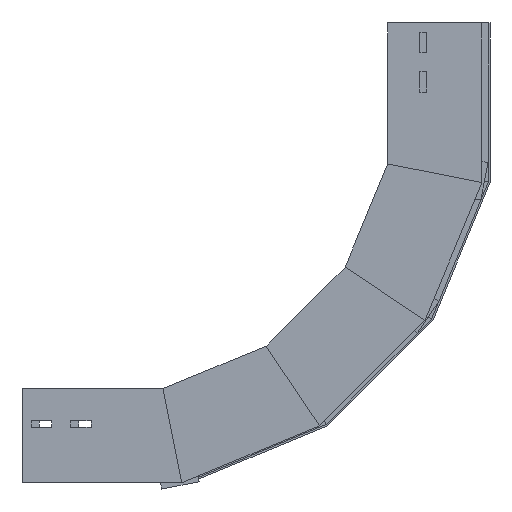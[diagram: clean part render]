
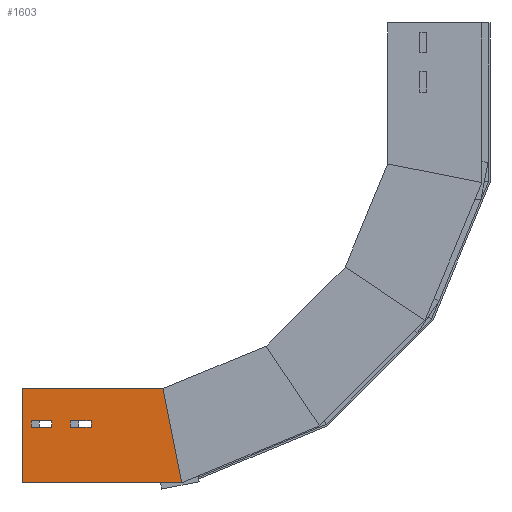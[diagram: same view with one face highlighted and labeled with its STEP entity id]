
A CAD part, left-side view. The second image highlights one B-rep face of the part: STEP entity #1603.
In plain terms, the highlighted planar face has unit normal (-1, 0, 0) as drawn and (1, 0, 0) by its records, which use the part's own axes.
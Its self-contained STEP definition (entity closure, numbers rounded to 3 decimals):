
#23 = ORIENTED_EDGE ( 'NONE', *, *, #347, .F. ) ;
#45 = CARTESIAN_POINT ( 'NONE',  ( 0., 66., -31.835 ) ) ;
#60 = EDGE_CURVE ( 'NONE', #368, #1757, #1211, .T. ) ;
#100 = CARTESIAN_POINT ( 'NONE',  ( 0., 100., 0. ) ) ;
#101 = CARTESIAN_POINT ( 'NONE',  ( 0., 100., -149.709 ) ) ;
#113 = VECTOR ( 'NONE', #443, 1000. ) ;
#137 = DIRECTION ( 'NONE',  ( 0., 1., 0. ) ) ;
#152 = VECTOR ( 'NONE', #431, 1000. ) ;
#153 = ORIENTED_EDGE ( 'NONE', *, *, #969, .F. ) ;
#157 = LINE ( 'NONE', #1230, #152 ) ;
#176 = CARTESIAN_POINT ( 'NONE',  ( 0., 0., 0. ) ) ;
#180 = ORIENTED_EDGE ( 'NONE', *, *, #1697, .T. ) ;
#206 = VECTOR ( 'NONE', #137, 1000. ) ;
#223 = DIRECTION ( 'NONE',  ( 0., 0., -1. ) ) ;
#273 = LINE ( 'NONE', #1289, #1281 ) ;
#279 = EDGE_CURVE ( 'NONE', #406, #368, #1664, .T. ) ;
#281 = CARTESIAN_POINT ( 'NONE',  ( 0., 59., -9.835 ) ) ;
#316 = CARTESIAN_POINT ( 'NONE',  ( 0., 66., -51.505 ) ) ;
#318 = DIRECTION ( 'NONE',  ( 0., -0.981, -0.195 ) ) ;
#342 = EDGE_CURVE ( 'NONE', #770, #406, #1696, .T. ) ;
#347 = EDGE_CURVE ( 'NONE', #616, #1618, #517, .T. ) ;
#368 = VERTEX_POINT ( 'NONE', #404 ) ;
#404 = CARTESIAN_POINT ( 'NONE',  ( 0., 66., -51.505 ) ) ;
#406 = VERTEX_POINT ( 'NONE', #1397 ) ;
#415 = ORIENTED_EDGE ( 'NONE', *, *, #60, .T. ) ;
#419 = ORIENTED_EDGE ( 'NONE', *, *, #342, .T. ) ;
#422 = EDGE_CURVE ( 'NONE', #944, #664, #273, .T. ) ;
#431 = DIRECTION ( 'NONE',  ( 0., 0., -1. ) ) ;
#434 = LINE ( 'NONE', #1575, #206 ) ;
#443 = DIRECTION ( 'NONE',  ( 0., -1., 0. ) ) ;
#480 = CARTESIAN_POINT ( 'NONE',  ( 0., 59., -31.835 ) ) ;
#508 = CARTESIAN_POINT ( 'NONE',  ( 0., 100., 0. ) ) ;
#517 = LINE ( 'NONE', #100, #1795 ) ;
#526 = DIRECTION ( 'NONE',  ( 0., 1., 0. ) ) ;
#541 = CARTESIAN_POINT ( 'NONE',  ( 0., 66., -51.505 ) ) ;
#580 = ORIENTED_EDGE ( 'NONE', *, *, #422, .T. ) ;
#616 = VERTEX_POINT ( 'NONE', #508 ) ;
#631 = CARTESIAN_POINT ( 'NONE',  ( 0., 32.452, -163.145 ) ) ;
#658 = EDGE_LOOP ( 'NONE', ( #1800, #580, #874, #1572 ) ) ;
#664 = VERTEX_POINT ( 'NONE', #45 ) ;
#671 = EDGE_CURVE ( 'NONE', #1618, #1730, #1495, .T. ) ;
#713 = VERTEX_POINT ( 'NONE', #281 ) ;
#727 = EDGE_CURVE ( 'NONE', #713, #944, #434, .T. ) ;
#739 = CARTESIAN_POINT ( 'NONE',  ( 0., 66., -73.505 ) ) ;
#746 = CARTESIAN_POINT ( 'NONE',  ( 0., 66., -9.835 ) ) ;
#768 = VECTOR ( 'NONE', #1521, 1000. ) ;
#770 = VERTEX_POINT ( 'NONE', #1433 ) ;
#817 = VECTOR ( 'NONE', #1635, 1000. ) ;
#822 = EDGE_CURVE ( 'NONE', #1757, #770, #1173, .T. ) ;
#833 = CARTESIAN_POINT ( 'NONE',  ( 0., 59., -51.505 ) ) ;
#855 = VECTOR ( 'NONE', #917, 1000. ) ;
#874 = ORIENTED_EDGE ( 'NONE', *, *, #1838, .T. ) ;
#896 = EDGE_LOOP ( 'NONE', ( #23, #153, #180, #1524 ) ) ;
#909 = LINE ( 'NONE', #176, #1101 ) ;
#917 = DIRECTION ( 'NONE',  ( 0., 0., 1. ) ) ;
#944 = VERTEX_POINT ( 'NONE', #746 ) ;
#969 = EDGE_CURVE ( 'NONE', #1741, #616, #909, .T. ) ;
#976 = VECTOR ( 'NONE', #526, 1000. ) ;
#1039 = VECTOR ( 'NONE', #318, 1000. ) ;
#1046 = LINE ( 'NONE', #1620, #855 ) ;
#1082 = CARTESIAN_POINT ( 'NONE',  ( 0., 0., -169.6 ) ) ;
#1101 = VECTOR ( 'NONE', #1129, 1000. ) ;
#1116 = CARTESIAN_POINT ( 'NONE',  ( 0., 0., 0. ) ) ;
#1129 = DIRECTION ( 'NONE',  ( 0., 1., 0. ) ) ;
#1160 = DIRECTION ( 'NONE',  ( 0., 0., -1. ) ) ;
#1173 = LINE ( 'NONE', #739, #113 ) ;
#1211 = LINE ( 'NONE', #316, #817 ) ;
#1230 = CARTESIAN_POINT ( 'NONE',  ( 0., 0., 0. ) ) ;
#1244 = PLANE ( 'NONE',  #1526 ) ;
#1254 = FACE_BOUND ( 'NONE', #1291, .T. ) ;
#1262 = DIRECTION ( 'NONE',  ( 0., 0., 1. ) ) ;
#1273 = VERTEX_POINT ( 'NONE', #480 ) ;
#1281 = VECTOR ( 'NONE', #1160, 1000. ) ;
#1289 = CARTESIAN_POINT ( 'NONE',  ( 0., 66., -9.835 ) ) ;
#1291 = EDGE_LOOP ( 'NONE', ( #1343, #415, #1351, #419 ) ) ;
#1343 = ORIENTED_EDGE ( 'NONE', *, *, #279, .T. ) ;
#1347 = EDGE_CURVE ( 'NONE', #1273, #713, #1046, .T. ) ;
#1351 = ORIENTED_EDGE ( 'NONE', *, *, #822, .T. ) ;
#1391 = LINE ( 'NONE', #1559, #768 ) ;
#1397 = CARTESIAN_POINT ( 'NONE',  ( 0., 59., -51.505 ) ) ;
#1423 = DIRECTION ( 'NONE',  ( -1., 0., 0. ) ) ;
#1433 = CARTESIAN_POINT ( 'NONE',  ( 0., 59., -73.505 ) ) ;
#1465 = CARTESIAN_POINT ( 'NONE',  ( 0., 0., 0. ) ) ;
#1495 = LINE ( 'NONE', #631, #1039 ) ;
#1521 = DIRECTION ( 'NONE',  ( 0., -1., 0. ) ) ;
#1524 = ORIENTED_EDGE ( 'NONE', *, *, #671, .F. ) ;
#1526 = AXIS2_PLACEMENT_3D ( 'NONE', #1116, #1423, #1262 ) ;
#1537 = FACE_OUTER_BOUND ( 'NONE', #896, .T. ) ;
#1559 = CARTESIAN_POINT ( 'NONE',  ( 0., 66., -31.835 ) ) ;
#1572 = ORIENTED_EDGE ( 'NONE', *, *, #1347, .T. ) ;
#1575 = CARTESIAN_POINT ( 'NONE',  ( 0., 66., -9.835 ) ) ;
#1603 = ADVANCED_FACE ( 'NONE', ( #1254, #1537, #1833 ), #1244, .F. ) ;
#1612 = VECTOR ( 'NONE', #1842, 1000. ) ;
#1618 = VERTEX_POINT ( 'NONE', #101 ) ;
#1620 = CARTESIAN_POINT ( 'NONE',  ( 0., 59., -9.835 ) ) ;
#1635 = DIRECTION ( 'NONE',  ( 0., 0., -1. ) ) ;
#1655 = CARTESIAN_POINT ( 'NONE',  ( 0., 66., -73.505 ) ) ;
#1664 = LINE ( 'NONE', #541, #976 ) ;
#1696 = LINE ( 'NONE', #833, #1612 ) ;
#1697 = EDGE_CURVE ( 'NONE', #1741, #1730, #157, .T. ) ;
#1730 = VERTEX_POINT ( 'NONE', #1082 ) ;
#1741 = VERTEX_POINT ( 'NONE', #1465 ) ;
#1757 = VERTEX_POINT ( 'NONE', #1655 ) ;
#1795 = VECTOR ( 'NONE', #223, 1000. ) ;
#1800 = ORIENTED_EDGE ( 'NONE', *, *, #727, .T. ) ;
#1833 = FACE_BOUND ( 'NONE', #658, .T. ) ;
#1838 = EDGE_CURVE ( 'NONE', #664, #1273, #1391, .T. ) ;
#1842 = DIRECTION ( 'NONE',  ( 0., 0., 1. ) ) ;
